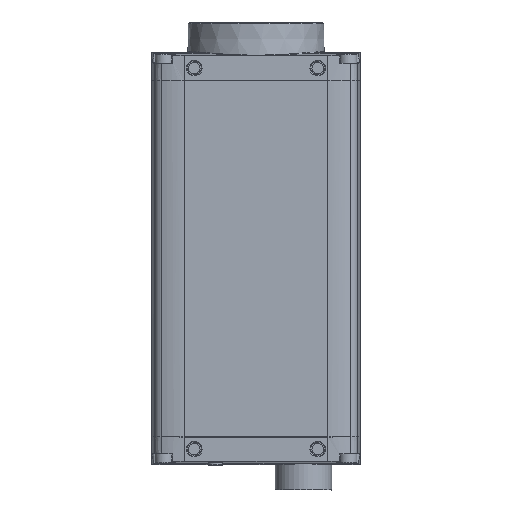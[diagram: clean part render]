
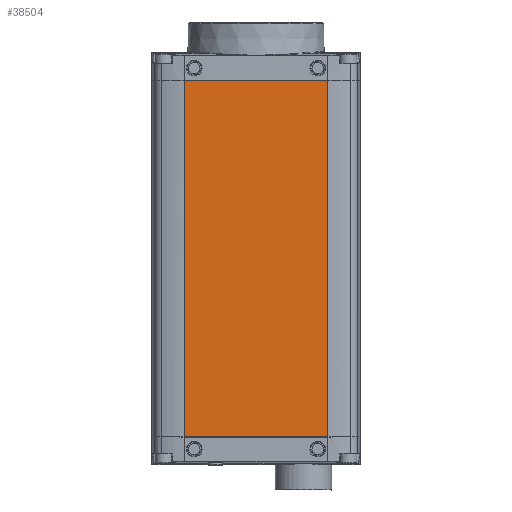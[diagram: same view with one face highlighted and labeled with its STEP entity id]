
A CAD part, front view. The second image highlights one B-rep face of the part: STEP entity #38504.
In plain terms, the highlighted planar face has unit normal (0, -1, 0).
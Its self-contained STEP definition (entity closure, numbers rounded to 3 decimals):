
#19402=CARTESIAN_POINT('',(15.11,-14.5,-87.3));
#19403=VERTEX_POINT('',#19402);
#19411=CARTESIAN_POINT('',(-15.11,-14.5,-87.3));
#19412=VERTEX_POINT('',#19411);
#19413=CARTESIAN_POINT('',(-15.11,-14.5,-87.3));
#19414=DIRECTION('',(1.0,0.0,0.0));
#19415=VECTOR('',#19414,30.22);
#19416=LINE('',#19413,#19415);
#19417=EDGE_CURVE('',#19412,#19403,#19416,.T.);
#38240=CARTESIAN_POINT('',(-15.11,-14.5,-12.3));
#38241=VERTEX_POINT('',#38240);
#38249=CARTESIAN_POINT('',(15.11,-14.5,-12.3));
#38250=VERTEX_POINT('',#38249);
#38251=CARTESIAN_POINT('',(15.11,-14.5,-12.3));
#38252=DIRECTION('',(-1.0,0.0,0.0));
#38253=VECTOR('',#38252,30.22);
#38254=LINE('',#38251,#38253);
#38255=EDGE_CURVE('',#38250,#38241,#38254,.T.);
#38476=CARTESIAN_POINT('',(15.11,-14.5,-87.3));
#38477=DIRECTION('',(0.0,0.0,1.0));
#38478=VECTOR('',#38477,75.0);
#38479=LINE('',#38476,#38478);
#38480=EDGE_CURVE('',#19403,#38250,#38479,.T.);
#38488=CARTESIAN_POINT('',(0.,-14.5,-87.3));
#38489=DIRECTION('',(0.0,-1.0,0.0));
#38490=DIRECTION('',(0.0,0.0,1.0));
#38491=AXIS2_PLACEMENT_3D('',#38488,#38489,#38490);
#38492=PLANE('',#38491);
#38493=ORIENTED_EDGE('',*,*,#38255,.T.);
#38494=CARTESIAN_POINT('',(-15.11,-14.5,-87.3));
#38495=DIRECTION('',(0.0,0.0,1.0));
#38496=VECTOR('',#38495,75.0);
#38497=LINE('',#38494,#38496);
#38498=EDGE_CURVE('',#19412,#38241,#38497,.T.);
#38499=ORIENTED_EDGE('',*,*,#38498,.F.);
#38500=ORIENTED_EDGE('',*,*,#19417,.T.);
#38501=ORIENTED_EDGE('',*,*,#38480,.T.);
#38502=EDGE_LOOP('',(#38493,#38499,#38500,#38501));
#38503=FACE_OUTER_BOUND('',#38502,.T.);
#38504=ADVANCED_FACE('',(#38503),#38492,.T.);
